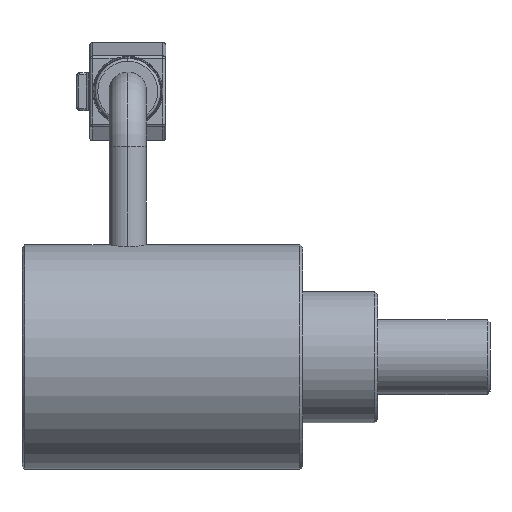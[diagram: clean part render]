
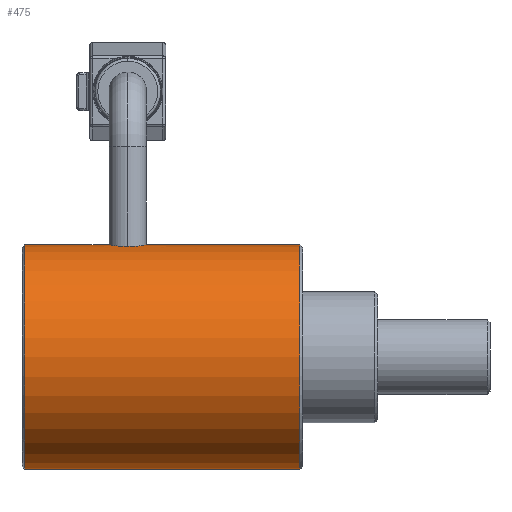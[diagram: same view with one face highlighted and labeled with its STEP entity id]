
A CAD part, top view. The second image highlights one B-rep face of the part: STEP entity #475.
In plain terms, the highlighted cylindrical face has radius 12 mm (diameter 24 mm), a partial arc.
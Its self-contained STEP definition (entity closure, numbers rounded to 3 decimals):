
#55=CARTESIAN_POINT('',(29.7,0.,0.));
#56=DIRECTION('',(1.,0.,0.));
#57=DIRECTION('',(0.,1.,0.));
#58=AXIS2_PLACEMENT_3D('',#55,#56,#57);
#60=DIRECTION('',(1.,0.,0.));
#61=VECTOR('',#60,29.4);
#62=CARTESIAN_POINT('',(0.3,-12.,0.));
#63=LINE('',#62,#61);
#64=CARTESIAN_POINT('',(0.3,0.,0.));
#65=DIRECTION('',(-1.,0.,0.));
#66=DIRECTION('',(0.,-1.,0.));
#67=AXIS2_PLACEMENT_3D('',#64,#65,#66);
#69=CARTESIAN_POINT('',(11.3,11.832,2.));
#70=CARTESIAN_POINT('',(11.168,11.832,2.));
#71=CARTESIAN_POINT('',(10.909,11.837,1.974));
#72=CARTESIAN_POINT('',(10.528,11.855,1.859));
#73=CARTESIAN_POINT('',(10.179,11.884,1.672));
#74=CARTESIAN_POINT('',(9.876,11.916,1.422));
#75=CARTESIAN_POINT('',(9.627,11.949,1.119));
#76=CARTESIAN_POINT('',(9.439,11.977,0.77));
#77=CARTESIAN_POINT('',(9.321,11.996,0.372));
#78=CARTESIAN_POINT('',(9.3,12.,0.124));
#79=CARTESIAN_POINT('',(9.3,12.,0.));
#81=CARTESIAN_POINT('',(13.3,12.,0.));
#82=CARTESIAN_POINT('',(13.3,12.,0.125));
#83=CARTESIAN_POINT('',(13.278,11.996,0.374));
#84=CARTESIAN_POINT('',(13.16,11.977,0.773));
#85=CARTESIAN_POINT('',(12.972,11.949,1.121));
#86=CARTESIAN_POINT('',(12.723,11.916,1.423));
#87=CARTESIAN_POINT('',(12.42,11.884,1.672));
#88=CARTESIAN_POINT('',(12.071,11.855,1.86));
#89=CARTESIAN_POINT('',(11.691,11.837,1.975));
#90=CARTESIAN_POINT('',(11.432,11.832,2.));
#91=CARTESIAN_POINT('',(11.3,11.832,2.));
#236=DIRECTION('',(1.,0.,0.));
#237=VECTOR('',#236,16.4);
#238=CARTESIAN_POINT('',(13.3,12.,0.));
#239=LINE('',#238,#237);
#264=DIRECTION('',(1.,0.,0.));
#265=VECTOR('',#264,9.);
#266=CARTESIAN_POINT('',(0.3,12.,
0.));
#267=LINE('',#266,#265);
#321=VERTEX_POINT('',#81);
#322=VERTEX_POINT('',#91);
#323=VERTEX_POINT('',#79);
#329=CARTESIAN_POINT('',(29.7,-12.,0.));
#330=CARTESIAN_POINT('',(29.7,12.,0.));
#331=VERTEX_POINT('',#329);
#332=VERTEX_POINT('',#330);
#337=CARTESIAN_POINT('',(0.3,12.,0.));
#338=CARTESIAN_POINT('',(0.3,-12.,0.));
#339=VERTEX_POINT('',#337);
#340=VERTEX_POINT('',#338);
#455=CARTESIAN_POINT('',(0.,0.,0.));
#456=DIRECTION('',(-1.,0.,0.));
#457=DIRECTION('',(0.,-1.,0.));
#458=AXIS2_PLACEMENT_3D('',#455,#456,#457);
#459=CYLINDRICAL_SURFACE('',#458,12.);
#461=ORIENTED_EDGE('',*,*,#460,.T.);
#463=ORIENTED_EDGE('',*,*,#462,.F.);
#464=ORIENTED_EDGE('',*,*,#449,.T.);
#466=ORIENTED_EDGE('',*,*,#465,.T.);
#468=ORIENTED_EDGE('',*,*,#467,.F.);
#470=ORIENTED_EDGE('',*,*,#469,.F.);
#472=ORIENTED_EDGE('',*,*,#471,.T.);
#473=EDGE_LOOP('',(#461,#463,#464,#466,#468,#470,#472));
#474=FACE_OUTER_BOUND('',#473,.F.);
#475=ADVANCED_FACE('',(#474),#459,.T.);
#59=CIRCLE('',#58,12.);
#68=CIRCLE('',#67,12.);
#80=B_SPLINE_CURVE_WITH_KNOTS('',3,(#69,#70,#71,#72,#73,#74,#75,#76,#77,#78,
#79),.UNSPECIFIED.,.F.,.F.,(4,1,1,1,1,1,1,1,4),(0.,0.125,0.25,0.375,
0.5,0.625,0.75,0.875,1.),.UNSPECIFIED.);
#92=B_SPLINE_CURVE_WITH_KNOTS('',3,(#81,#82,#83,#84,#85,#86,#87,#88,#89,#90,
#91),.UNSPECIFIED.,.F.,.F.,(4,1,1,1,1,1,1,1,4),(0.,0.125,0.25,0.375,
0.5,0.625,0.75,0.875,1.),.UNSPECIFIED.);
#449=EDGE_CURVE('',#340,#339,#68,.T.);
#460=EDGE_CURVE('',#332,#331,#59,.T.);
#462=EDGE_CURVE('',#340,#331,#63,.T.);
#465=EDGE_CURVE('',#339,#323,#267,.T.);
#467=EDGE_CURVE('',#322,#323,#80,.T.);
#469=EDGE_CURVE('',#321,#322,#92,.T.);
#471=EDGE_CURVE('',#321,#332,#239,.T.);
